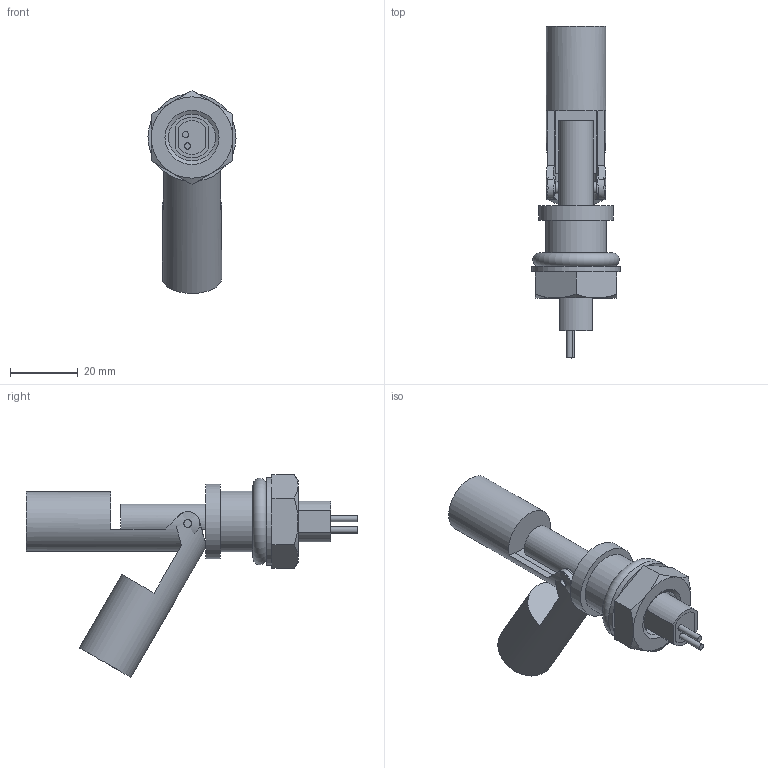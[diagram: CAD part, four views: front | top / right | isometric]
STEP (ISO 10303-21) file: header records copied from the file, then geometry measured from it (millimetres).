
FILE_DESCRIPTION((''),'2;1');
FILE_NAME('C:\Vault_local\Designs\Stock\3D pour clients\préparations\2D3D 518 A.stp','2009-08-07T10:02:17',('Georges THOLLOT ','Responsible for','Methods and Industrialization',' Tl : +33 (0)4 77 53 90 27','gthollot@celduc.com'),('Celduc r e l a i s','5, rue Ampre, BP 30004','42290 SORBIERS - France','Fax. : +33 (0)4 77 53 85 51','N siret 353 310 519 00015','ISO 9001 N QUAL/1993/1106b','www.celduc.com'),'Autodesk Inventor 2009','Autodesk Inventor 2009','');
FILE_SCHEMA(('AUTOMOTIVE_DESIGN { 1 0 10303 214 1 1 1 1 }'));
Length unit declared in the file: millimetre
Products named in the file (6): PTFA0100; corps; joint; ecrou; rondelle; flotteur
Assembly tree (6 placements, depth 2):
  PTFA0100
    corps
    joint
    ecrou
    rondelle
    flotteur  x2
Bounding box: 25.99 x 98 x 59.88 mm (x, y, z)
Volume: 28719.3 mm3; surface area: 13899.9 mm2
Topology: 6 solids, 6 shells, 92 faces, 205 edges, 135 vertices
Faces by surface type: plane 53, cylinder 29, cone 8, torus 1, bspline 1
Full cylindrical faces by diameter (mm): 1.8 x2, 2.35 x6, 3.5 x2, 16 x3, 17.5 x2, 18 x1, 22 x1, 26 x1
Entity records: 2613 total; most frequent: CARTESIAN_POINT 826, DIRECTION 348, ORIENTED_EDGE 278, AXIS2_PLACEMENT_3D 143, EDGE_CURVE 139, EDGE_LOOP 116, VERTEX_POINT 101, FACE_OUTER_BOUND 77
